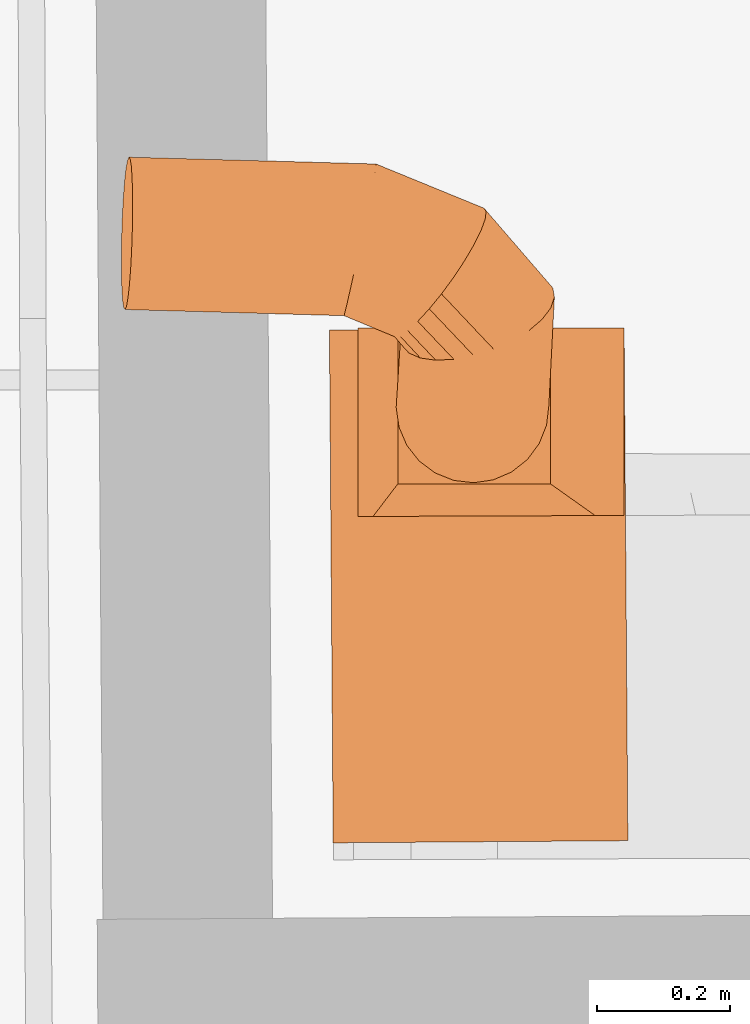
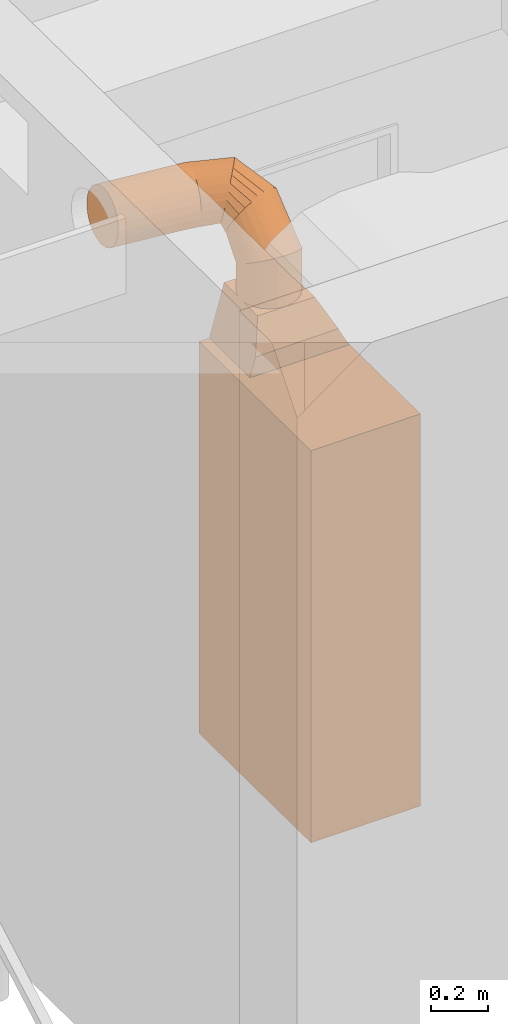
# One storey, part 145 of 158: 1 proxy.
"""IFC2X3 building model written with IfcOpenShell, lengths in metres."""

from ifc_helpers import new_model, entity, si_unit, converted_unit, derived_unit, money_unit, direction, origin_with_axes, place, context, subcontext, project, spatial, faceted_brep, material, type_object, element, save


model = new_model("IFC2X3")

# Units and contexts
model_context = context("Model", 3, precision=1e-05, world=origin_with_axes(), true_north=direction((0.0, 1.0)))
body_context = subcontext(model_context, "Body", "Model", "MODEL_VIEW")
ifc_project = project(units=[si_unit("LENGTHUNIT", "METRE"), si_unit("AREAUNIT", "SQUARE_METRE"), si_unit("VOLUMEUNIT", "CUBIC_METRE"), converted_unit("PLANEANGLEUNIT", "DEGREE", entity("IfcPlaneAngleMeasure", 0.0174532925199), si_unit("PLANEANGLEUNIT", "RADIAN"), dimensions=[0, 0, 0, 0, 0, 0, 0]), money_unit("EUR"), converted_unit("TIMEUNIT", "Year", entity("IfcTimeMeasure", 31556926.0), si_unit("TIMEUNIT", "SECOND"), dimensions=[0, 0, 1, 0, 0, 0, 0]), si_unit("MASSUNIT", "GRAM", prefix="KILO"), si_unit("THERMODYNAMICTEMPERATUREUNIT", "DEGREE_CELSIUS"), si_unit("LUMINOUSINTENSITYUNIT", "LUMEN"), si_unit("ENERGYUNIT", "JOULE", prefix="MEGA"), derived_unit("THERMALCONDUCTANCEUNIT", [(si_unit("POWERUNIT", "WATT"), 1), (si_unit("LENGTHUNIT", "METRE"), -1), (si_unit("THERMODYNAMICTEMPERATUREUNIT", "KELVIN"), -1)]), derived_unit("SPECIFICHEATCAPACITYUNIT", [(si_unit("ENERGYUNIT", "JOULE"), 1), (si_unit("MASSUNIT", "GRAM", prefix="KILO"), -1), (si_unit("THERMODYNAMICTEMPERATUREUNIT", "KELVIN"), -1)]), derived_unit("MASSDENSITYUNIT", [(si_unit("MASSUNIT", "GRAM", prefix="KILO"), 1), (si_unit("VOLUMEUNIT", "CUBIC_METRE"), -1)])], contexts=[model_context])

# Site, building, storey
site_placement = place(None, origin_with_axes())
site = spatial("IfcSite", under=ifc_project, at=site_placement, Name="Gelände", CompositionType="ELEMENT")
building_placement = place(site_placement, origin_with_axes())
building = spatial("IfcBuilding", under=site, at=building_placement, Name="Gebäude", CompositionType="ELEMENT")
storey_placement = place(building_placement, origin_with_axes())
storey = spatial("IfcBuildingStorey", under=building, at=storey_placement, Name="ERDGESCHOSS", CompositionType="ELEMENT", Elevation=0.0)

# Proxy
ifc_material = material(Name="56_Metall, Stahl verzinkt")
building_element_proxy_type = type_object("IfcBuildingElementProxyType", Name="56_Metall, Stahl verzinkt", PredefinedType="NOTDEFINED")
proxy_placement = place(storey_placement, origin_with_axes())
element("IfcBuildingElementProxy", 1, at=proxy_placement, inside=storey, type_object=building_element_proxy_type, material=ifc_material, Name="Stütze-011", context=body_context, shape_type="Brep", body=[
    faceted_brep([(-23.2770800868, 32.2297774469, 4.48283209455), (-23.33893375, 32.2313587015, 4.48984811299), (-23.3401662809, 32.2483822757, 4.46515113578), (-23.2788341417, 32.2197607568, 4.51118241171), (-23.6122867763, 32.2389557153, 4.50872671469), (-23.6135193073, 32.2559792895, 4.48402973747), (-23.2738072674, 32.2467317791, 4.45803905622), (-23.3372626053, 32.2213115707, 4.5180885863), (-23.2045961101, 32.2025347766, 4.4902041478), (-23.6106156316, 32.2289085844, 4.53696718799), (-23.608619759, 32.2265225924, 4.56682661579), (-23.6064351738, 32.2319603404, 4.59627012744), (-23.6042107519, 32.2448512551, 4.62329119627), (-23.602098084, 32.2643168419, 4.64604838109), (-23.600241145, 32.2890305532, 4.66299081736), (-23.5987664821, 32.3173081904, 4.67296390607), (-23.5977745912, 32.3472226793, 4.67528799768), (-23.5973330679, 32.3767353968, 4.66980470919), (-23.5974720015, 32.4038351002, 4.65688771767), (-23.5981819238, 32.4266749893, 4.63741729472), (-23.5994144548, 32.4436985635, 4.61272031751), (-23.6010855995, 32.4537456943, 4.5844798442), (-23.6030814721, 32.4561316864, 4.5546204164), (-23.6052660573, 32.4506939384, 4.52517690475), (-23.6074904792, 32.4378030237, 4.49815583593), (-23.6096031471, 32.4183374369, 4.47539865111), (-23.6114600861, 32.3936237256, 4.45845621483), (-23.6129347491, 32.3653460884, 4.44848312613), (-23.61392664, 32.3354315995, 4.44615903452), (-23.6143681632, 32.305918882, 4.451642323), (-23.6142292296, 32.2788191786, 4.46455931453), (-23.3408762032, 32.2712221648, 4.44568071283), (-23.1983467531, 32.2194827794, 4.46524631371), (-23.2789498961, 32.2173643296, 4.54115798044), (-23.2061362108, 32.1910374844, 4.51874290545), (-23.3352667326, 32.2189255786, 4.5479480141), (-23.3330821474, 32.2243633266, 4.57739152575), (-23.3308577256, 32.2372542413, 4.60441259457), (-23.3287450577, 32.2567198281, 4.62716977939), (-23.3268881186, 32.2814335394, 4.64411221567), (-23.3254134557, 32.3097111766, 4.65408530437), (-23.3244215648, 32.3396256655, 4.65640939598), (-23.3239800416, 32.369138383, 4.6509261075), (-23.3241189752, 32.3962380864, 4.63800911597), (-23.3248288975, 32.4190779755, 4.61853869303), (-23.3260614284, 32.4361015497, 4.59384171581), (-23.3277325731, 32.4461486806, 4.56560124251), (-23.3297284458, 32.4485346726, 4.53574181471), (-23.331913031, 32.4430969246, 4.50629830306), (-23.3341374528, 32.4302060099, 4.47927723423), (-23.3362501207, 32.4107404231, 4.45652004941), (-23.3381070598, 32.3860267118, 4.43957761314), (-23.3395817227, 32.3577490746, 4.42960452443), (-23.3405736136, 32.3278345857, 4.42728043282), (-23.3410151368, 32.2983218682, 4.43276372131), (-23.2692387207, 32.2694683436, 4.43849290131), (-23.1878140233, 32.2407265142, 4.44557023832), (-23.1881952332, 32.2024241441, 4.42760985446), (-23.1936591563, 32.1862894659, 4.45261473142), (-23.2774194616, 32.2227514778, 4.57071601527), (-23.2743471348, 32.2355550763, 4.59784218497), (-23.2699422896, 32.2549025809, 4.62068788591), (-23.264505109, 32.2794754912, 4.63769622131), (-23.2584061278, 32.307599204, 4.64770810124), (-23.2520609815, 32.3373571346, 4.65004123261), (-23.2459020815, 32.3667213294, 4.64453661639), (-23.2403491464, 32.3936906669, 4.63156938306), (-23.2357805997, 32.4164272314, 4.61202322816), (-23.2325077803, 32.4333815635, 4.58723018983), (-23.2307537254, 32.4433982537, 4.55887987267), (-23.2306379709, 32.4457946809, 4.52890430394), (-23.2321684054, 32.4404075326, 4.49934626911), (-23.2352407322, 32.4276039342, 4.47222009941), (-23.2396455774, 32.4082564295, 4.44937439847), (-23.2450827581, 32.3836835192, 4.43236606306), (-23.2511817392, 32.3555598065, 4.42235418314), (-23.2575268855, 32.3258018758, 4.42002105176), (-23.2636857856, 32.2964376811, 4.42552566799), (-23.1752120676, 32.2194619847, 4.40574248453), (-23.2028621, 32.1857744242, 4.54891771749), (-23.1912314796, 32.1721575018, 4.47905307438), (-23.1737157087, 32.2648182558, 4.43251681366), (-23.1555944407, 32.236241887, 4.38850284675), (-23.1968703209, 32.1089377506, 4.357557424), (-23.1857643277, 32.1368289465, 4.34106763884), (-23.2003791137, 32.0791224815, 4.3749925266), (-23.1949969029, 32.1871042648, 4.57867222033), (-23.1830766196, 32.1949363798, 4.60597869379), (-23.1679135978, 32.2087370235, 4.62897624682), (-23.1505411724, 32.2275657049, 4.64609763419), (-23.1321432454, 32.2501392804, 4.65617606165), (-23.1139736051, 32.2749193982, 4.65852470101), (-23.0972704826, 32.3002173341, 4.65298349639), (-23.083172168, 32.3243090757, 4.63993007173), (-23.0726394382, 32.3455528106, 4.62025399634), (-23.0663900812, 32.3625008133, 4.59529616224), (-23.0648499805, 32.3739981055, 4.56675740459), (-23.0681240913, 32.3792611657, 4.53658259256), (-23.0759892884, 32.3779313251, 4.50682808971), (-23.0879095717, 32.3700992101, 4.47952161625), (-23.1030725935, 32.3562985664, 4.45652406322), (-23.1204450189, 32.337469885, 4.43940267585), (-23.1388429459, 32.3148963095, 4.4293242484), (-23.1570125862, 32.2901161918, 4.42697560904), (-23.1678179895, 32.1608953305, 4.32664692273), (-23.1810776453, 32.1609913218, 4.50512315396), (-23.1960515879, 32.0494150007, 4.39218477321), (-23.1306792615, 32.2516203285, 4.37706579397), (-23.1442543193, 32.1794968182, 4.31527802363), (-23.1857643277, 32.1368289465, 4.22202688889), (-23.1968703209, 32.1089377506, 4.22202688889), (-23.1996683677, 32.0851619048, 4.21601781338), (-23.2003791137, 32.0791224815, 4.21601781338), (-23.1979838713, 32.0994755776, 4.22202688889), (-23.1678179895, 32.1608953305, 4.22202688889), (-23.1996683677, 32.0742433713, 4.21601781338), (-23.1979838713, 32.0626796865, 4.22202688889), (-23.1960515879, 32.0494150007, 4.22202688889), (-23.1638896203, 32.1535518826, 4.5290483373), (-23.1408387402, 32.1503461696, 4.54919816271), (-23.1134958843, 32.151592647, 4.56419945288), (-23.0837244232, 32.1572063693, 4.57302989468), (-23.0535532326, 32.1668047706, 4.5750877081), (-23.0250384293, 32.1797337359, 4.57023265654), (-23.0001232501, 32.1951121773, 4.55879560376), (-22.9805056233, 32.2118920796, 4.54155596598), (-22.9675224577, 32.2289299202, 4.51968859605), (-22.9620585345, 32.2450645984, 4.49468371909), (-22.9644862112, 32.2591965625, 4.46824537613), (-22.9746400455, 32.2703627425, 4.44217529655), (-22.9918280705, 32.2778021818, 4.41825011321), (-23.0148789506, 32.2810078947, 4.3981002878), (-23.0422218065, 32.2797614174, 4.38309899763), (-23.0719932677, 32.2741476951, 4.37426855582), (-23.1021644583, 32.2645492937, 4.37221074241), (-23.1442543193, 32.1794968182, 4.22202688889), (-23.1841826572, 32.0218398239, 4.40796254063), (-23.1979838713, 31.963878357, 4.22202688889), (-22.967798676, 31.963878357, 4.22202688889), (-22.967798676, 32.1988462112, 4.22202688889), (-23.1979838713, 32.1988462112, 4.22202688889), (-23.1166791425, 32.1913657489, 4.22202688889), (-23.0869716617, 32.1956932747, 4.22202688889), (-23.0571563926, 32.1921844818, 4.22202688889), (-23.0292651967, 32.1810784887, 4.22202688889), (-23.0051988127, 32.1631321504, 4.22202688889), (-22.9865973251, 32.1395684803, 4.22202688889), (-22.9747283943, 32.1119933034, 4.22202688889), (-22.9704008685, 32.0822858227, 4.22202688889), (-22.9739096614, 32.0524705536, 4.22202688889), (-22.9850156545, 32.0245793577, 4.22202688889), (-23.0029619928, 32.0005129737, 4.22202688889), (-23.0265256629, 31.981911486, 4.22202688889), (-23.0541008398, 31.9700425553, 4.22202688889), (-23.0838083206, 31.9657150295, 4.22202688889), (-23.1136235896, 31.9692238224, 4.22202688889), (-23.1415147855, 31.9803298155, 4.22202688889), (-23.1655811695, 31.9982761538, 4.22202688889), (-23.1841826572, 32.0218398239, 4.22202688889), (-23.2577924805, 32.1958956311, 4.0086726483), (-23.2577924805, 31.9149021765, 4.0086726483), (-23.235237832, 31.9149872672, 4.08913146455), (-23.2577924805, 32.1988462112, 4.0086726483), (-23.1166791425, 32.1913657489, 4.30773571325), (-22.9006086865, 31.916249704, 4.0925630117), (-22.8570707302, 31.9164139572, 4.0086726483), (-22.8570707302, 32.1988462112, 4.0086726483), (-23.0869716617, 32.1956932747, 4.30453398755), (-23.0571563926, 32.1921844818, 4.30589103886), (-23.0292651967, 32.1810784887, 4.31171438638), (-23.0051988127, 32.1631321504, 4.32160717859), (-22.9865973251, 32.1395684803, 4.33489523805), (-22.9747283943, 32.1119933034, 4.35067300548), (-22.9704008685, 32.0822858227, 4.36786525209), (-22.9739096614, 32.0524705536, 4.38530035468), (-22.9850156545, 32.0245793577, 4.40179013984), (-23.0029619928, 32.0005129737, 4.41621085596), (-23.0265256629, 31.981911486, 4.42757975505), (-23.0541008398, 31.9700425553, 4.43512206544), (-23.0838083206, 31.9657150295, 4.43832379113), (-23.1136235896, 31.9692238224, 4.43696673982), (-23.1415147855, 31.9803298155, 4.43114339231), (-23.1655811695, 31.9982761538, 4.4212506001), (-23.3009097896, 32.1955781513, 4.0086726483), (-23.2952235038, 31.4233169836, 4.0086726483), (-22.8513844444, 31.4265850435, 4.0086726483), (-23.3009097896, 32.1955781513, 2.33723188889), (-23.2952235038, 31.4233169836, 2.33723188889), (-22.8513844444, 31.4265850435, 2.33723188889), (-22.8570707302, 32.1988462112, 2.33723188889)], [[[0, 1, 2]], [[3, 1, 0]], [[4, 5, 2, 1]], [[2, 6, 0]], [[7, 1, 3]], [[3, 0, 8]], [[9, 10, 11, 12, 13, 14, 15, 16, 17, 18, 19, 20, 21, 22, 23, 24, 25, 26, 27, 28, 29, 30, 5, 4]], [[31, 2, 5, 30]], [[1, 7, 9, 4]], [[31, 6, 2]], [[0, 6, 32]], [[3, 33, 7]], [[32, 8, 0]], [[3, 8, 34]], [[9, 7, 35, 10]], [[10, 35, 36, 11]], [[11, 36, 37, 12]], [[12, 37, 38, 13]], [[13, 38, 39, 14]], [[39, 40, 15, 14]], [[40, 41, 16, 15]], [[41, 42, 17, 16]], [[17, 42, 43, 18]], [[19, 18, 43, 44]], [[44, 45, 20, 19]], [[46, 21, 20, 45]], [[46, 47, 22, 21]], [[48, 23, 22, 47]], [[24, 23, 48, 49]], [[25, 24, 49, 50]], [[26, 25, 50, 51]], [[52, 27, 26, 51]], [[53, 28, 27, 52]], [[28, 53, 54, 29]], [[54, 31, 30, 29]], [[6, 31, 55]], [[32, 6, 56]], [[33, 3, 34]], [[7, 33, 35]], [[57, 8, 32]], [[8, 58, 34]], [[35, 59, 36]], [[36, 60, 37]], [[37, 61, 38]], [[38, 62, 39]], [[40, 39, 63]], [[41, 40, 64]], [[42, 41, 65]], [[43, 42, 66]], [[44, 43, 67]], [[45, 44, 68]], [[46, 45, 69]], [[47, 46, 70]], [[48, 47, 71]], [[49, 48, 72]], [[50, 49, 73]], [[51, 50, 74]], [[52, 51, 75]], [[53, 52, 76]], [[77, 54, 53]], [[55, 31, 54]], [[6, 55, 56]], [[78, 32, 56]], [[33, 34, 79]], [[35, 33, 59]], [[58, 8, 57]], [[78, 57, 32]], [[80, 34, 58]], [[59, 60, 36]], [[37, 60, 61]], [[38, 61, 62]], [[39, 62, 63]], [[40, 63, 64]], [[41, 64, 65]], [[42, 65, 66]], [[43, 66, 67]], [[44, 67, 68]], [[68, 69, 45]], [[46, 69, 70]], [[71, 47, 70]], [[72, 48, 71]], [[73, 49, 72]], [[74, 50, 73]], [[74, 75, 51]], [[76, 52, 75]], [[77, 53, 76]], [[55, 54, 77]], [[56, 55, 81]], [[82, 78, 56]], [[34, 80, 79]], [[59, 33, 79]], [[57, 83, 58]], [[78, 84, 57]], [[58, 85, 80]], [[60, 59, 86]], [[61, 60, 87]], [[62, 61, 88]], [[63, 62, 89]], [[64, 63, 90]], [[91, 65, 64]], [[92, 66, 65]], [[67, 66, 93]], [[67, 94, 68]], [[69, 68, 95]], [[96, 70, 69]], [[97, 71, 70]], [[72, 71, 98]], [[99, 73, 72]], [[74, 73, 100]], [[75, 74, 101]], [[102, 76, 75]], [[103, 77, 76]], [[55, 77, 81]], [[82, 56, 81]], [[104, 78, 82]], [[105, 79, 80]], [[79, 86, 59]], [[83, 57, 84]], [[83, 85, 58]], [[84, 78, 104]], [[85, 106, 80]], [[60, 86, 87]], [[61, 87, 88]], [[62, 88, 89]], [[63, 89, 90]], [[64, 90, 91]], [[65, 91, 92]], [[66, 92, 93]], [[67, 93, 94]], [[68, 94, 95]], [[96, 69, 95]], [[70, 96, 97]], [[98, 71, 97]], [[99, 72, 98]], [[100, 73, 99]], [[101, 74, 100]], [[102, 75, 101]], [[103, 76, 102]], [[81, 77, 103]], [[107, 82, 81]], [[108, 104, 82]], [[79, 105, 86]], [[80, 106, 105]], [[109, 110, 83, 84]], [[111, 112, 85, 83, 110, 113]], [[109, 84, 104, 114]], [[112, 115, 116, 117, 106, 85]], [[86, 118, 87]], [[119, 88, 87]], [[120, 89, 88]], [[89, 121, 90]], [[91, 90, 122]], [[92, 91, 123]], [[93, 92, 124]], [[94, 93, 125]], [[126, 95, 94]], [[95, 127, 96]], [[128, 97, 96]], [[129, 98, 97]], [[99, 98, 130]], [[100, 99, 131]], [[101, 100, 132]], [[102, 101, 133]], [[134, 103, 102]], [[107, 81, 103]], [[108, 82, 107]], [[135, 114, 104, 108]], [[118, 86, 105]], [[106, 136, 105]], [[117, 116, 137, 138, 139, 140, 113, 110, 109, 114, 135, 141, 142, 143, 144, 145, 146, 147, 148, 149, 150, 151, 152, 153, 154, 155, 156, 157, 158]], [[115, 112, 111]], [[159, 160, 161, 137, 116, 115, 111, 113, 140, 162]], [[117, 158, 136, 106]], [[118, 119, 87]], [[88, 119, 120]], [[89, 120, 121]], [[90, 121, 122]], [[91, 122, 123]], [[123, 124, 92]], [[124, 125, 93]], [[125, 126, 94]], [[126, 127, 95]], [[127, 128, 96]], [[128, 129, 97]], [[129, 130, 98]], [[130, 131, 99]], [[131, 132, 100]], [[132, 133, 101]], [[134, 102, 133]], [[134, 107, 103]], [[163, 108, 107]], [[135, 108, 163, 141]], [[105, 136, 118]], [[137, 161, 164, 138]], [[138, 164, 165, 166, 139]], [[166, 162, 140, 139]], [[142, 141, 163, 167]], [[142, 167, 168, 143]], [[144, 143, 168, 169]], [[145, 144, 169, 170]], [[171, 146, 145, 170]], [[147, 146, 171, 172]], [[148, 147, 172, 173]], [[149, 148, 173, 174]], [[150, 149, 174, 175]], [[151, 150, 175, 176]], [[152, 151, 176, 177]], [[153, 152, 177, 178]], [[179, 154, 153, 178]], [[155, 154, 179, 180]], [[156, 155, 180, 181]], [[157, 156, 181, 182]], [[158, 157, 182, 136]], [[183, 184, 185, 166, 165, 160, 159]], [[160, 165, 164, 161]], [[159, 162, 166]], [[118, 182, 119]], [[119, 181, 120]], [[120, 180, 121]], [[121, 179, 122]], [[178, 123, 122]], [[123, 177, 124]], [[176, 125, 124]], [[125, 175, 126]], [[126, 174, 127]], [[173, 128, 127]], [[172, 129, 128]], [[171, 130, 129]], [[130, 170, 131]], [[169, 132, 131]], [[168, 133, 132]], [[167, 134, 133]], [[163, 107, 134]], [[136, 182, 118]], [[167, 163, 134]], [[168, 167, 133]], [[169, 168, 132]], [[170, 169, 131]], [[171, 170, 130]], [[172, 171, 129]], [[173, 172, 128]], [[174, 173, 127]], [[175, 174, 126]], [[176, 175, 125]], [[177, 176, 124]], [[178, 177, 123]], [[179, 178, 122]], [[180, 179, 121]], [[181, 180, 120]], [[182, 181, 119]], [[184, 183, 186, 187]], [[184, 187, 188, 185]], [[185, 188, 189, 166]], [[186, 183, 159, 166, 189]], [[187, 186, 189, 188]]]),
])

save(model, "model.ifc")
